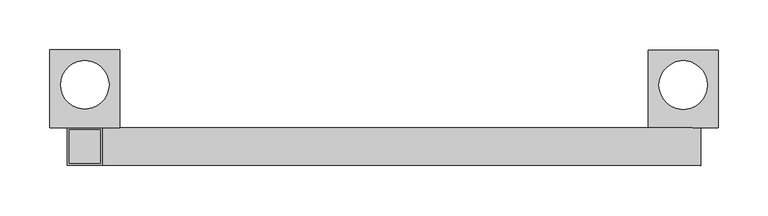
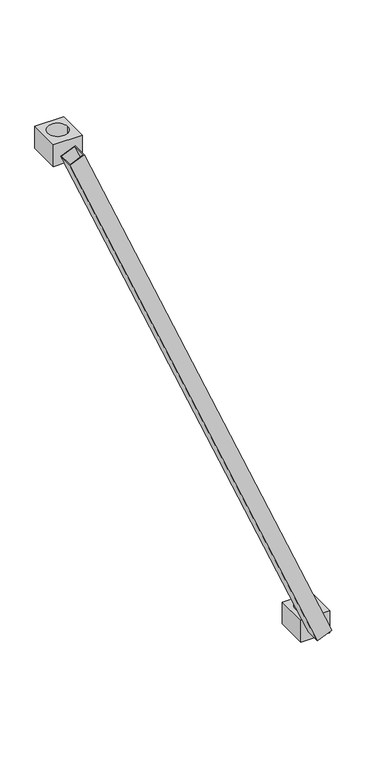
"""IFC4 building model written with IfcOpenShell, lengths in millimetres: proxy geometry, AK_アルバトロスAK伸縮斜材 : H1800×L0600."""

from ifc_helpers import new_model, si_unit, point, frame, frame_2d, origin, place, context, project, spatial, polyline, circle_curve, trimmed, segment, composite_curve, outline, extrude, source, transform, mapped, element, save


def generic_models_513740f3(model_context):
    return source(origin(), model_context, "Body", "SweptSolid", [
        extrude(outline(polyline([(0.0, 0.0), (0.0, -38.0), (-38.0000001, -38.0), (-38.0000001, 0.0), (0.0, 0.0)]), holes=[polyline([(-2.0, -2.0), (-36.0000001, -2.0), (-36.0000001, -36.0), (-2.0, -36.0), (-2.0, -2.0)])]), frame((17.5187428, 19.0, 7.3548387), z_axis=(-0.38709677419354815, 0.0, 0.9220390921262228), x_axis=(0.9220390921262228, 0.0, 0.38709677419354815)), (0.0, 0.0, 1.0), 1550.0),
        extrude(outline(polyline([(35.0, 96.8842695), (35.0, 19.0), (-35.0, 19.0), (-35.0, 96.8842695), (35.0, 96.8842695)]), holes=[composite_curve([segment(trimmed(circle_curve(frame_2d((0.0, 61.8842695)), 24.3), [point((24.3, 61.8842695))], [point((-24.3, 61.8842695))], True, "CARTESIAN"), True, "CONTINUOUS"), segment(trimmed(circle_curve(frame_2d((0.0, 61.8842695)), 24.3), [point((-24.3, 61.8842695))], [point((24.3, 61.8842695))], True, "CARTESIAN"), True, "CONTINUOUS")], self_intersect=False)]), frame((0.0, 0.0, -27.7559086), z_axis=(0.0, 0.0, 1.0), x_axis=(1.0, 0.0, 0.0)), (0.0, 0.0, 1.0), 55.5118171),
        extrude(outline(polyline([(-565.0, 19.0), (-635.0, 19.0), (-635.0, 96.8842695), (-565.0, 96.8842695), (-565.0, 19.0)]), holes=[composite_curve([segment(trimmed(circle_curve(frame_2d((-600.0, 61.8842695)), 24.3), [point((-575.7, 61.8842695))], [point((-624.3, 61.8842695))], True, "CARTESIAN"), True, "CONTINUOUS"), segment(trimmed(circle_curve(frame_2d((-600.0, 61.8842695)), 24.3), [point((-624.3, 61.8842695))], [point((-575.7, 61.8842695))], True, "CARTESIAN"), True, "CONTINUOUS")], self_intersect=False)]), frame((0.0, 0.0, 1401.4046842), z_axis=(0.0, 0.0, 1.0), x_axis=(1.0, 0.0, 0.0)), (0.0, 0.0, 1.0), 55.5118171),
    ])


if __name__ == "__main__":
    model = new_model("IFC4")
    model_context = context("Model", 3, world=origin())
    ifc_project = project(units=[si_unit("LENGTHUNIT", "METRE", prefix="MILLI")], contexts=[model_context])
    site = spatial("IfcSite", under=ifc_project)
    building = spatial("IfcBuilding", under=site)
    placement = place(None, origin())
    generic_models_shape = generic_models_513740f3(model_context)
    element("IfcBuildingElementProxy", 1, Name="AK_アルバトロスAK伸縮斜材 : H1800×L0600", ObjectType="AK_アルバトロスAK伸縮斜材 : H1800×L0600", at=placement, inside=building, context=model_context, shape_type="MappedRepresentation", body=[
        mapped(generic_models_shape, transform((0.0, 0.0, 0.0), x_axis=(1.0, 0.0, 0.0), y_axis=(0.0, 1.0, 0.0), z_axis=(0.0, 0.0, 1.0))),
    ])
    save(model, "model.ifc")
